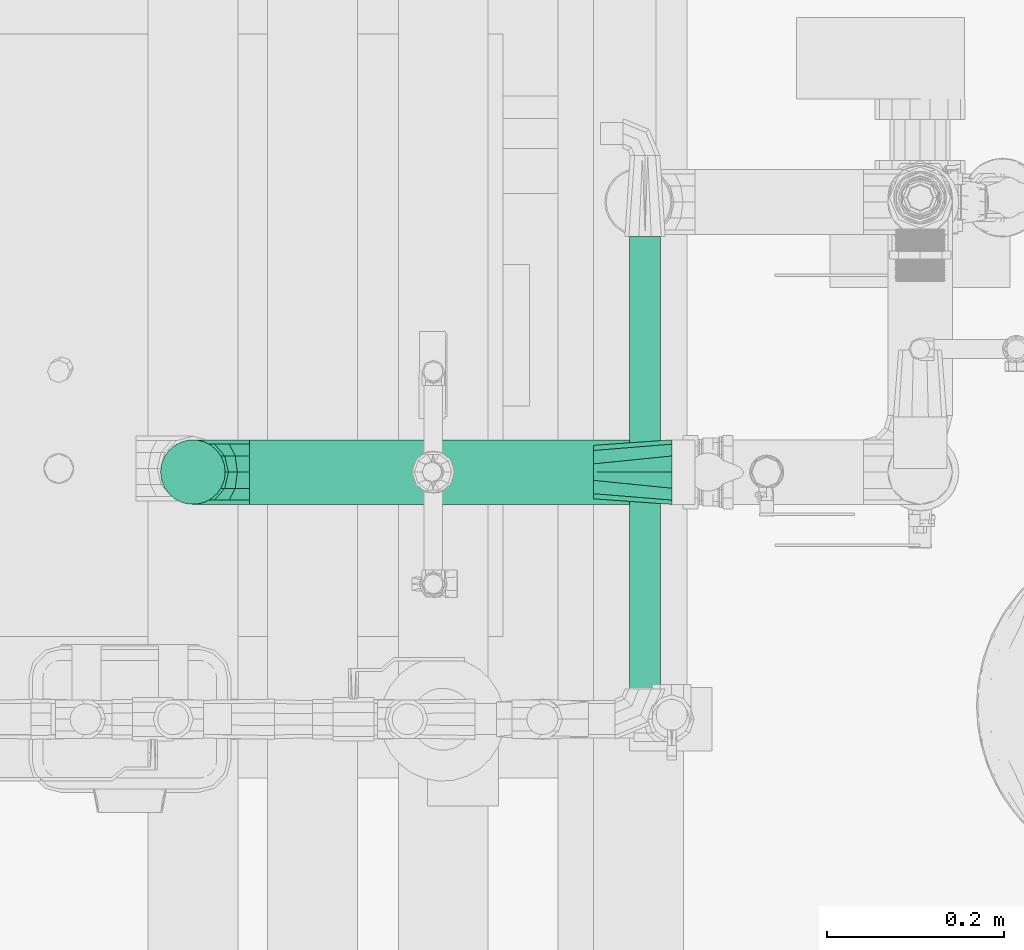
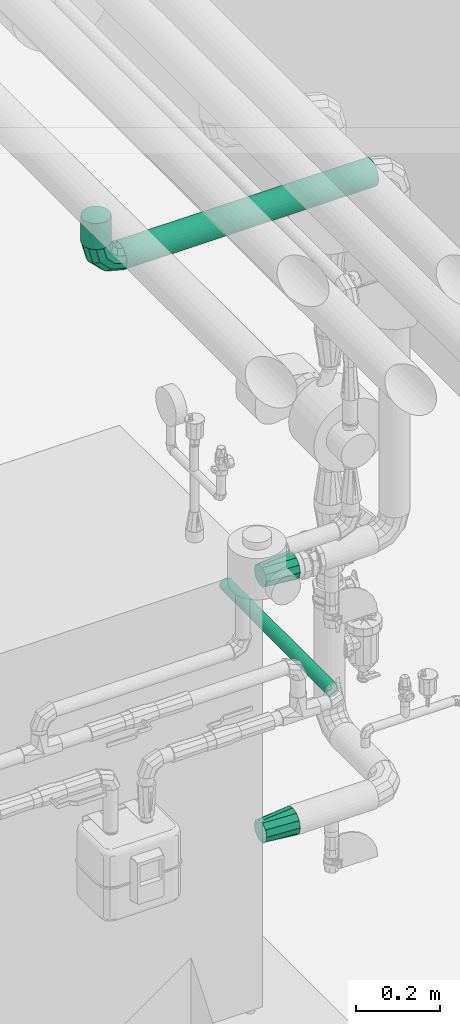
# One storey, part 15 of 43: 3 flow fittings, 3 flow segments.
"""IFC2X3 building model written with IfcOpenShell, lengths in millimetres."""

from ifc_helpers import new_model, entity, si_unit, converted_unit, derived_unit, direction, frame, frame_2d, origin, origin_2d_with_axis, place, context, subcontext, project, spatial, circle, extrude, faceted_brep, source, transform, mapped, material, material_list, type_object, type_shapes, element, save


model = new_model("IFC2X3")

# Units and contexts
model_context = context("Model", 3, precision=0.01, world=origin(), true_north=direction((6.123031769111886e-17, 1.0)))
body_context = subcontext(model_context, "Body", "Model", "MODEL_VIEW")
ifc_project = project(units=[si_unit("LENGTHUNIT", "METRE", prefix="MILLI"), si_unit("AREAUNIT", "SQUARE_METRE"), si_unit("VOLUMEUNIT", "CUBIC_METRE"), converted_unit("PLANEANGLEUNIT", "DEGREE", entity("IfcRatioMeasure", 0.017453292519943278), si_unit("PLANEANGLEUNIT", "RADIAN"), dimensions=[0, 0, 0, 0, 0, 0, 0]), si_unit("MASSUNIT", "GRAM", prefix="KILO"), derived_unit("MASSDENSITYUNIT", [(si_unit("MASSUNIT", "GRAM", prefix="KILO"), 1), (si_unit("LENGTHUNIT", "METRE"), -3)]), derived_unit("MOMENTOFINERTIAUNIT", [(si_unit("LENGTHUNIT", "METRE"), 4)]), si_unit("TIMEUNIT", "SECOND"), si_unit("FREQUENCYUNIT", "HERTZ"), si_unit("THERMODYNAMICTEMPERATUREUNIT", "DEGREE_CELSIUS"), derived_unit("THERMALTRANSMITTANCEUNIT", [(si_unit("MASSUNIT", "GRAM", prefix="KILO"), 1), (si_unit("THERMODYNAMICTEMPERATUREUNIT", "KELVIN"), -1), (si_unit("TIMEUNIT", "SECOND"), -3)]), derived_unit("VOLUMETRICFLOWRATEUNIT", [(si_unit("LENGTHUNIT", "METRE"), 3), (si_unit("TIMEUNIT", "SECOND"), -1)]), derived_unit("MASSFLOWRATEUNIT", [(si_unit("MASSUNIT", "GRAM", prefix="KILO"), 1), (si_unit("TIMEUNIT", "SECOND"), -1)]), derived_unit("ROTATIONALFREQUENCYUNIT", [(si_unit("TIMEUNIT", "SECOND"), -1)]), si_unit("ELECTRICCURRENTUNIT", "AMPERE"), si_unit("ELECTRICVOLTAGEUNIT", "VOLT"), si_unit("POWERUNIT", "WATT"), si_unit("FORCEUNIT", "NEWTON", prefix="KILO"), si_unit("ILLUMINANCEUNIT", "LUX"), si_unit("LUMINOUSFLUXUNIT", "LUMEN"), si_unit("LUMINOUSINTENSITYUNIT", "CANDELA"), derived_unit("USERDEFINED", [(si_unit("MASSUNIT", "GRAM", prefix="KILO"), -1), (si_unit("LENGTHUNIT", "METRE"), -2), (si_unit("TIMEUNIT", "SECOND"), 3), (si_unit("LUMINOUSFLUXUNIT", "LUMEN"), 1)]), derived_unit("SOUNDPOWERUNIT", [(si_unit("MASSUNIT", "GRAM", prefix="KILO"), 1), (si_unit("LENGTHUNIT", "METRE"), 2), (si_unit("TIMEUNIT", "SECOND"), -3)]), derived_unit("SOUNDPRESSUREUNIT", [(si_unit("MASSUNIT", "GRAM", prefix="KILO"), 1), (si_unit("LENGTHUNIT", "METRE"), -1), (si_unit("TIMEUNIT", "SECOND"), -2)]), derived_unit("LINEARVELOCITYUNIT", [(si_unit("LENGTHUNIT", "METRE"), 1), (si_unit("TIMEUNIT", "SECOND"), -1)]), si_unit("PRESSUREUNIT", "PASCAL"), derived_unit("USERDEFINED", [(si_unit("LENGTHUNIT", "METRE"), -2), (si_unit("MASSUNIT", "GRAM", prefix="KILO"), 1), (si_unit("TIMEUNIT", "SECOND"), -2)]), derived_unit("LINEARFORCEUNIT", [(si_unit("MASSUNIT", "GRAM", prefix="KILO"), 1), (si_unit("LENGTHUNIT", "METRE"), 1), (si_unit("TIMEUNIT", "SECOND"), -2), (si_unit("LENGTHUNIT", "METRE"), -1)]), derived_unit("PLANARFORCEUNIT", [(si_unit("MASSUNIT", "GRAM", prefix="KILO"), 1), (si_unit("LENGTHUNIT", "METRE"), 1), (si_unit("TIMEUNIT", "SECOND"), -2), (si_unit("LENGTHUNIT", "METRE"), -2)])], contexts=[model_context])

# Site, building, storey
site_placement = place(None, origin())
site = spatial("IfcSite", under=ifc_project, at=site_placement, Name="Default", CompositionType="ELEMENT")
building_placement = place(site_placement, origin())
building = spatial("IfcBuilding", under=site, at=building_placement, CompositionType="ELEMENT")
storey_placement = place(building_placement, frame((0.0, 0.0, 270.0)))
storey = spatial("IfcBuildingStorey", under=building, at=storey_placement, Name="Niveau 0", CompositionType="ELEMENT", Elevation=270.0)

# Flow segments
pipe_segment_type_1 = type_object("IfcPipeSegmentType", Name="Canalisation:tube acier", PredefinedType="NOTDEFINED")
flow_segment_1_placement = place(storey_placement, origin())
element("IfcFlowSegment", 1, at=flow_segment_1_placement, inside=storey, type_object=pipe_segment_type_1, Name="Canalisation:tube acier", ObjectType="Canalisation:tube acier", context=body_context, shape_type="SweptSolid", body=[
    extrude(circle(Radius=36.5125, at=frame_2d((2.1657342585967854e-12, 5.414335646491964e-13), x_axis=(1.0, 0.0))), frame((-2439.263180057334, -9615.0, 2394.601734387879), z_axis=(1.0, 0.0, 0.0), x_axis=(0.0, 1.0, 0.0)), (0.0, 0.0, 1.0), 693.2631800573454),
])
flow_segment_2_placement = place(storey_placement, origin())
element("IfcFlowSegment", 2, at=flow_segment_2_placement, inside=storey, type_object=pipe_segment_type_1, Name="Canalisation:tube acier", ObjectType="Canalisation:tube acier", context=body_context, shape_type="SweptSolid", body=[
    extrude(circle(Radius=36.5125, at=origin_2d_with_axis()), frame((-2503.2631800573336, -9615.0, 2458.601734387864), z_axis=(0.0, 0.0, 1.0), x_axis=(-1.0, 0.0, 0.0)), (0.0, 0.0, 1.0), 76.00000000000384),
])

# Flow fittings
ifc_material = material(Name="<Unnamed>")
ifc_material_list = material_list([ifc_material, ifc_material])
pipe_fitting_type_1 = type_object("IfcPipeFittingType", Name="Coude - Générique:Standard", PredefinedType="NOTDEFINED", material=ifc_material_list)
shared_shape_1 = source(origin(), body_context, "Body", "Brep", [
    faceted_brep([(23.03555308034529, 13.749999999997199, 0.0), (18.800625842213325, 16.19503638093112, -18.250000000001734), (31.60992723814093, 64.0, -18.250000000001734), (36.50000000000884, 64.0, 0.0), (7.230589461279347, 22.874999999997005, -31.609927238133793), (18.250000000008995, 64.0, -31.609927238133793), (-8.574374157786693, 32.0, -36.50000000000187), (0.0, 64.0, -36.50000000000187), (-24.379337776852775, 41.12499999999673, -31.609927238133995), (-18.249999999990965, 64.0, -31.609927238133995), (-35.94937415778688, 47.8049636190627, -18.250000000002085), (-31.609927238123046, 64.0, -18.250000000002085), (-40.184301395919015, 50.24999999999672, 0.0), (-36.49999999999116, 64.0, 0.0), (-35.949374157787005, 47.80496361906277, 18.249999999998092), (-31.609927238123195, 64.0, 18.249999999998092), (-24.37933777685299, 41.12499999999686, 31.609927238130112), (-18.249999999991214, 64.0, 31.609927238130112), (-8.574374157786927, 32.0, 36.49999999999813), (0.0, 64.0, 36.49999999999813), (7.2305894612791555, 22.87499999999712, 31.609927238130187), (18.250000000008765, 64.0, 31.609927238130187), (18.80062584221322, 16.195036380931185, 18.24999999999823), (31.6099272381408, 64.0, 18.24999999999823), (-13.749999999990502, -23.035553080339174, 0.0), (-16.1950363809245, -18.80062584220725, -18.250000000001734), (-22.874999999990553, -7.230589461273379, -31.609927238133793), (-32.0, 8.574374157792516, -36.50000000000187), (-41.124999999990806, 24.379337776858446, -31.609927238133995), (-47.804963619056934, 35.94937415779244, -18.250000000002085), (-50.24999999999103, 40.18430139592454, 0.0), (-47.80496361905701, 35.94937415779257, 18.249999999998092), (-41.12499999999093, 24.37933777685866, 31.609927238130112), (-32.0, 8.574374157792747, 36.49999999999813), (-22.874999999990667, -7.23058946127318, 31.609927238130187), (-16.195036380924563, -18.800625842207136, 18.24999999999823), (-64.0, -36.50000000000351, 0.0), (-64.0, -31.609927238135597, -18.250000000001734), (-64.0, -18.250000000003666, -31.609927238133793), (-64.0, 0.0, -36.50000000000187), (-64.0, 18.249999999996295, -31.609927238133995), (-64.0, 31.60992723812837, -18.250000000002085), (-64.0, 36.49999999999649, 0.0), (-64.0, 31.60992723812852, 18.249999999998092), (-64.0, 18.249999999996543, 31.609927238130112), (-64.0, 0.0, 36.49999999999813), (-64.0, -18.25000000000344, 31.609927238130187), (-64.0, -31.60992723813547, 18.24999999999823)], [[[0, 1, 2, 3]], [[1, 4, 5, 2]], [[4, 6, 7, 5]], [[6, 8, 9, 7]], [[8, 10, 11, 9]], [[10, 12, 13, 11]], [[12, 14, 15, 13]], [[14, 16, 17, 15]], [[16, 18, 19, 17]], [[18, 20, 21, 19]], [[20, 22, 23, 21]], [[22, 0, 3, 23]], [[24, 25, 1, 0]], [[25, 26, 4, 1]], [[26, 27, 6, 4]], [[27, 28, 8, 6]], [[28, 29, 10, 8]], [[29, 30, 12, 10]], [[30, 31, 14, 12]], [[31, 32, 16, 14]], [[32, 33, 18, 16]], [[33, 34, 20, 18]], [[34, 35, 22, 20]], [[35, 24, 0, 22]], [[36, 37, 25, 24]], [[37, 38, 26, 25]], [[38, 39, 27, 26]], [[39, 40, 28, 27]], [[40, 41, 29, 28]], [[41, 42, 30, 29]], [[42, 43, 31, 30]], [[43, 44, 32, 31]], [[44, 45, 33, 32]], [[45, 46, 34, 33]], [[46, 47, 35, 34]], [[47, 36, 24, 35]], [[3, 2, 5, 7, 9, 11, 13, 15, 17, 19, 21, 23]], [[47, 46, 45, 44, 43, 42, 41, 40, 39, 38, 37, 36]]]),
])
type_shapes(pipe_fitting_type_1, [shared_shape_1])
flow_fitting_placement = place(storey_placement, frame((-2503.263180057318, -9615.0, 2394.601734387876), z_axis=(0.0, 1.0, 0.0), x_axis=(-1.0, 0.0, 0.0)))
element("IfcFlowFitting", 3, at=flow_fitting_placement, inside=storey, type_object=pipe_fitting_type_1, material=ifc_material, Name="Coude - Générique:Standard", ObjectType="Coude - Générique:Standard", context=body_context, shape_type="MappedRepresentation", body=[
    mapped(shared_shape_1, transform((0.0, 0.0, 0.0), scale=1.0)),
])
pipe_fitting_type_2 = type_object("IfcPipeFittingType", Name="Transformation - Générique:Standard", PredefinedType="NOTDEFINED", material=ifc_material)
shared_shape_2 = source(origin(), body_context, "Body", "Brep", [
    faceted_brep([(89.0, 31.609927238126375, -18.2499999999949), (89.0, 34.658829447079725, -6.871342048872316), (89.0, 36.4999999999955, 0.0), (89.0, 34.6588294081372, 6.871342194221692), (89.0, 31.609927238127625, 18.250000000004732), (89.0, 24.92996361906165, 24.929963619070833), (89.0, 18.249999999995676, 31.60992723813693), (89.0, 9.124999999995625, 34.05496361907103), (89.0, 0.0, 36.50000000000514), (89.0, -9.125000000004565, 34.05496361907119), (89.0, -18.2500000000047, 31.609927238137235), (89.0, -24.929963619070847, 24.92996361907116), (89.0, -31.609927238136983, 18.25000000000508), (89.0, -34.65882944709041, 6.871342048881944), (89.0, -36.50000000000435, 0.0), (89.0, -34.65882940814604, -6.871342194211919), (89.0, -31.609927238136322, -18.24999999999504), (89.0, -24.92996361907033, -24.929963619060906), (89.0, -18.25000000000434, -31.609927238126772), (89.0, -9.125000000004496, -34.054963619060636), (89.0, 0.0, -36.49999999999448), (89.0, 9.12499999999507, -34.05496361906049), (89.0, 18.24999999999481, -31.609927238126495), (89.0, 24.929963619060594, -24.929963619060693), (0.0, 30.149999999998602, 0.0), (0.0, 27.270931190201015, -8.86086267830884), (0.0, 24.391862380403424, -17.72172535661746), (0.0, 16.85436238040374, -23.198039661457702), (0.0, 9.316862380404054, -28.674353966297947), (0.0, 0.0, -28.674353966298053), (0.0, -9.316862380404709, -28.674353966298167), (0.0, -16.85436238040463, -23.198039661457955), (0.0, -24.391862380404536, -17.721725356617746), (0.0, -27.270931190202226, -8.860862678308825), (0.0, -30.150000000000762, 0.0), (0.0, -27.270931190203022, 8.86086267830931), (0.0, -24.39186238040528, 17.72172535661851), (0.0, -16.8543623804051, 23.198039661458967), (0.0, -9.316862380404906, 28.67435396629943), (0.0, 0.0, 28.67435396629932), (0.0, 9.31686238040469, 28.67435396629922), (0.0, 16.854362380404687, 23.198039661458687), (0.0, 24.39186238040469, 17.721725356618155), (0.0, 27.270931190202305, 8.860862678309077)], [[[0, 1, 2, 3, 4, 5, 6, 7, 8, 9, 10, 11, 12, 13, 14, 15, 16, 17, 18, 19, 20, 21, 22, 23]], [[24, 25, 26, 27, 28, 29, 30, 31, 32, 33, 34, 35, 36, 37, 38, 39, 40, 41, 42, 43]], [[16, 33, 32]], [[28, 21, 29]], [[29, 19, 30]], [[19, 29, 20]], [[17, 32, 31]], [[34, 15, 14]], [[15, 34, 33]], [[22, 28, 27]], [[16, 15, 33]], [[31, 18, 17]], [[16, 32, 17]], [[1, 25, 24]], [[26, 0, 23]], [[24, 2, 1]], [[28, 22, 21]], [[31, 30, 18]], [[23, 27, 26]], [[25, 0, 26]], [[0, 25, 1]], [[29, 21, 20]], [[22, 27, 23]], [[19, 18, 30]], [[4, 43, 42]], [[38, 9, 39]], [[39, 7, 40]], [[7, 39, 8]], [[5, 42, 41]], [[24, 3, 2]], [[3, 24, 43]], [[10, 38, 37]], [[4, 3, 43]], [[41, 6, 5]], [[4, 42, 5]], [[13, 35, 34]], [[36, 12, 11]], [[34, 14, 13]], [[38, 10, 9]], [[41, 40, 6]], [[11, 37, 36]], [[35, 12, 36]], [[12, 35, 13]], [[39, 9, 8]], [[10, 37, 11]], [[7, 6, 40]]]),
])
type_shapes(pipe_fitting_type_2, [shared_shape_2])
for number, where in (
    (4, (-2051.0, -9615.0, 583.499999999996)),
    (5, (-2051.0, -9615.0, 1326.499999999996)),
):
    element("IfcFlowFitting", number, at=place(storey_placement, frame(where)), inside=storey, type_object=pipe_fitting_type_2, material=ifc_material, Name="Transformation - Générique:Standard", ObjectType="Transformation - Générique:Standard", context=body_context, shape_type="MappedRepresentation", body=[
        mapped(shared_shape_2, transform((0.0, 0.0, 0.0), scale=1.0)),
    ])

# Flow segment
pipe_segment_type_2 = type_object("IfcPipeSegmentType", Name="Canalisation:tuyau cuivre", PredefinedType="NOTDEFINED")
flow_segment_3_placement = place(storey_placement, origin())
element("IfcFlowSegment", 6, at=flow_segment_3_placement, inside=storey, type_object=pipe_segment_type_2, Name="Canalisation:tuyau cuivre", ObjectType="Canalisation:tuyau cuivre", context=body_context, shape_type="SweptSolid", body=[
    extrude(circle(Radius=17.5, at=frame_2d((5.95576921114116e-12, 8.121503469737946e-13), x_axis=(1.0, 0.0))), frame((-1992.6000093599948, -9859.877454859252, 1120.5000000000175), z_axis=(0.0, 1.0, 0.0), x_axis=(-1.0, 0.0, 0.0)), (0.0, 0.0, 1.0), 510.93214235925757),
])

save(model, "model.ifc")
